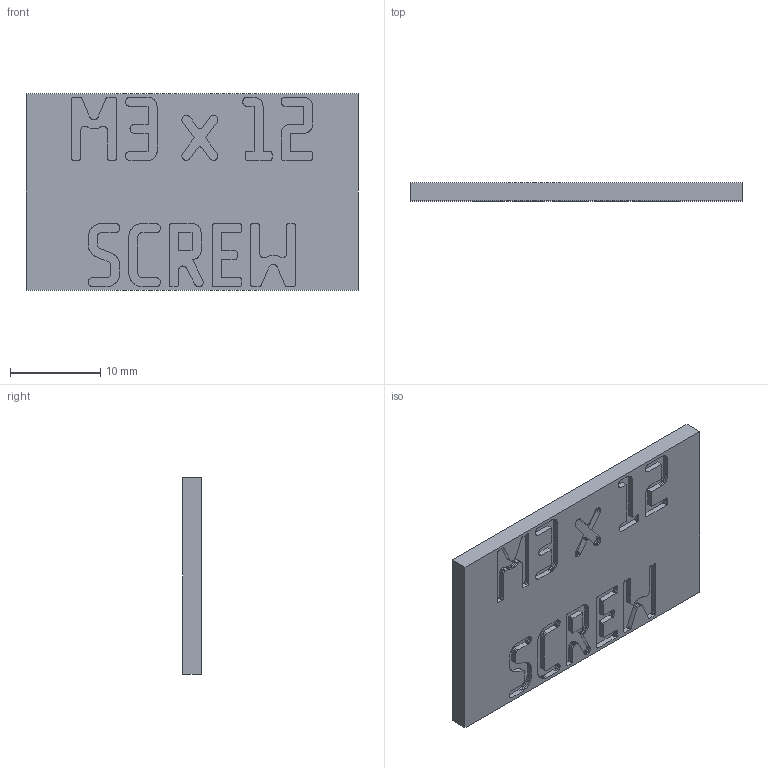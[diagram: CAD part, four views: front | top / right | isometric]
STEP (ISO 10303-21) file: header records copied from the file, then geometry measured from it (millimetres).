
FILE_DESCRIPTION(('Open CASCADE Model'),'2;1');
FILE_NAME('Open CASCADE Shape Model','2026-11-03T17:09:46',('Author'),( 'Open CASCADE'),'Open CASCADE STEP processor 8.0','build123d', 'Unknown');
FILE_SCHEMA(('AUTOMOTIVE_DESIGN { 1 0 10303 214 1 1 1 1 }'));
Length unit declared in the file: millimetre
Products named in the file (2): =>[0:1:1:2]; COMPOUND
Assembly tree (1 placements, depth 2):
  =>[0:1:1:2]
    COMPOUND
Bounding box: 36.8 x 2 x 21.8 mm (x, y, z)
Volume: 1520.2 mm3; surface area: 2004.4 mm2
Topology: 1 solids, 1 shells, 1123 faces, 3330 edges, 2220 vertices
Faces by surface type: plane 1123
Entity records: 80082 total; most frequent: CARTESIAN_POINT 13335, DIRECTION 12240, LINE 9990, VECTOR 9990, ORIENTED_EDGE 6660, PCURVE 6660, DEFINITIONAL_REPRESENTATION 6660, EDGE_CURVE 3330
